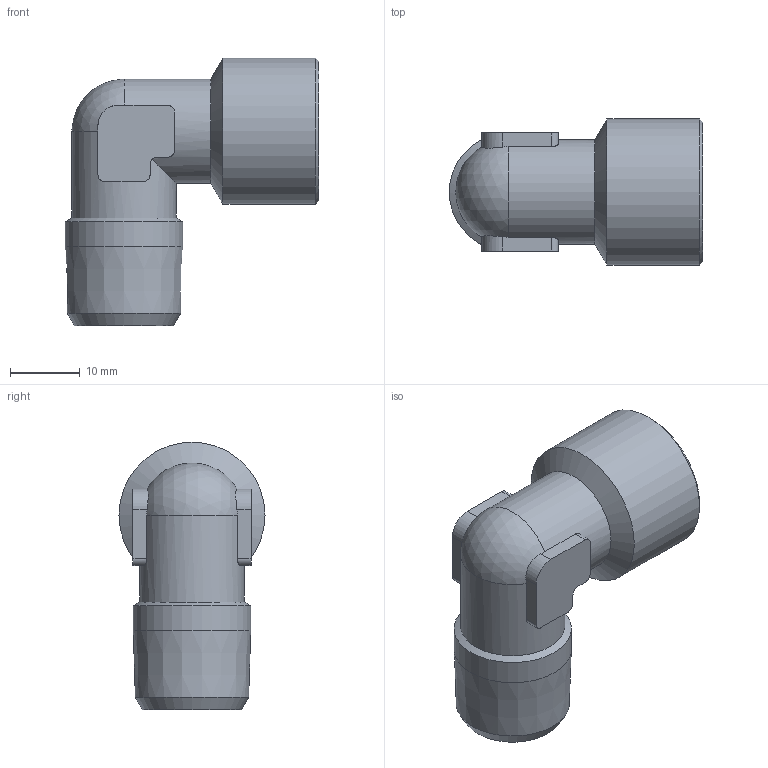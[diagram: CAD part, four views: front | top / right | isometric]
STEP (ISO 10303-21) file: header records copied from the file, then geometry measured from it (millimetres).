
FILE_DESCRIPTION(/* description */ (''),/* implementation_level */ '2;1');
FILE_NAME(/* name */ '50204_110_R38_G38_26.09.16',/* time_stamp */ '2016-09-26T11:05:37+02:00',/* author */ (''),/* organization */ (''),/* preprocessor_version */ 'ST-DEVELOPER v16.5',/* originating_system */ 'HiCAD 2016 2101.0 Build 254',/* authorisation */ '');
FILE_SCHEMA (('AUTOMOTIVE_DESIGN { 1 0 10303 214 1 1 1 1 }'));
Length unit declared in the file: millimetre
Products named in the file (2): Root; 50204
Assembly tree (1 placements, depth 2):
  Root
    50204
Bounding box: 36.45 x 21 x 38.5 mm (x, y, z)
Volume: 6883.5 mm3; surface area: 5490.8 mm2
Topology: 1 solids, 1 shells, 46 faces, 123 edges, 79 vertices
Faces by surface type: cylinder 20, plane 16, cone 9, sphere 1
Full cylindrical faces by diameter (mm): 11 x2, 14.95 x1, 15 x2, 16.893 x1, 21 x1
Entity records: 5079 total; most frequent: CARTESIAN_POINT 2949, DIRECTION 222, PRESENTATION_STYLE_ASSIGNMENT 211, COLOUR_RGB 211, DRAUGHTING_PRE_DEFINED_CURVE_FONT 210, CURVE_STYLE 210, OVER_RIDING_STYLED_ITEM 210, ORIENTED_EDGE 210
